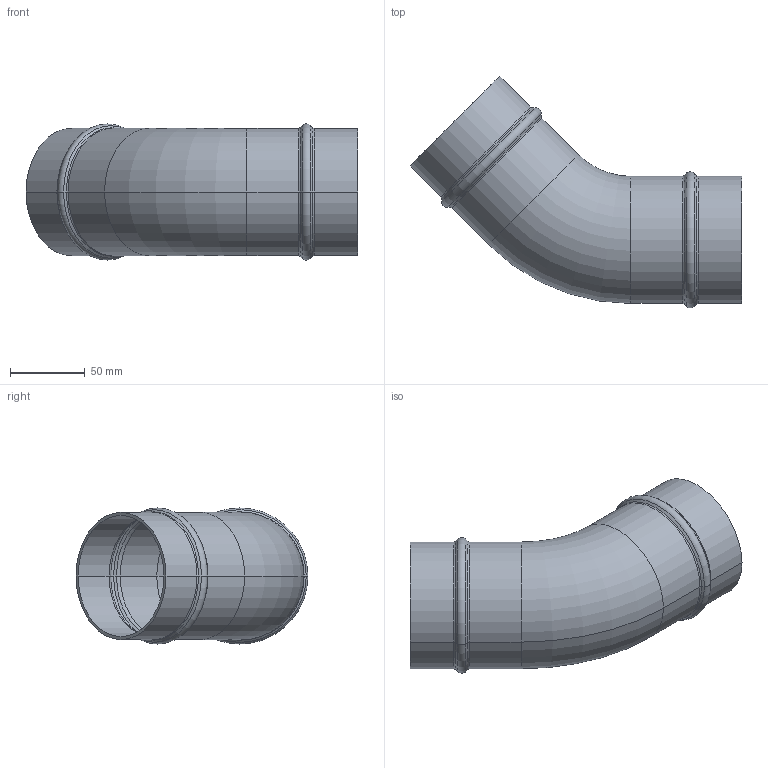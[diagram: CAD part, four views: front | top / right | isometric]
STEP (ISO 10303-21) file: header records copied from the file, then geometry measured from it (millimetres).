
FILE_DESCRIPTION(/* description */ (''),/* implementation_level */ '2;1');
FILE_NAME(/* name */ '7004_stp.stp',/* time_stamp */ '2025-06-20T11:26:10+08:00',/* author */ (''),/* organization */ (''),/* preprocessor_version */ 'ST-DEVELOPER v14',/* originating_system */ 'SIEMENS PLM Software NX 8.0',/* authorisation */ '');
FILE_SCHEMA (('AP203_CONFIGURATION_CONTROLLED_3D_DESIGN_OF_MECHANICAL_PARTS_AND_ASSEMBLIES_MIM_LF { 1 0 10303 403 2 1 2}'));
Length unit declared in the file: millimetre
Products named in the file (1): Admi144825784xd4
Bounding box: 221.95 x 155 x 90.92 mm (x, y, z)
Volume: 117737.7 mm3; surface area: 118780.7 mm2
Topology: 1 solids, 1 shells, 62 faces, 132 edges, 72 vertices
Faces by surface type: torus 28, cylinder 16, cone 16, plane 2
Entity records: 1768 total; most frequent: DIRECTION 358, CARTESIAN_POINT 267, ORIENTED_EDGE 264, AXIS2_PLACEMENT_3D 163, EDGE_CURVE 132, CIRCLE 100, VERTEX_POINT 72, EDGE_LOOP 64
